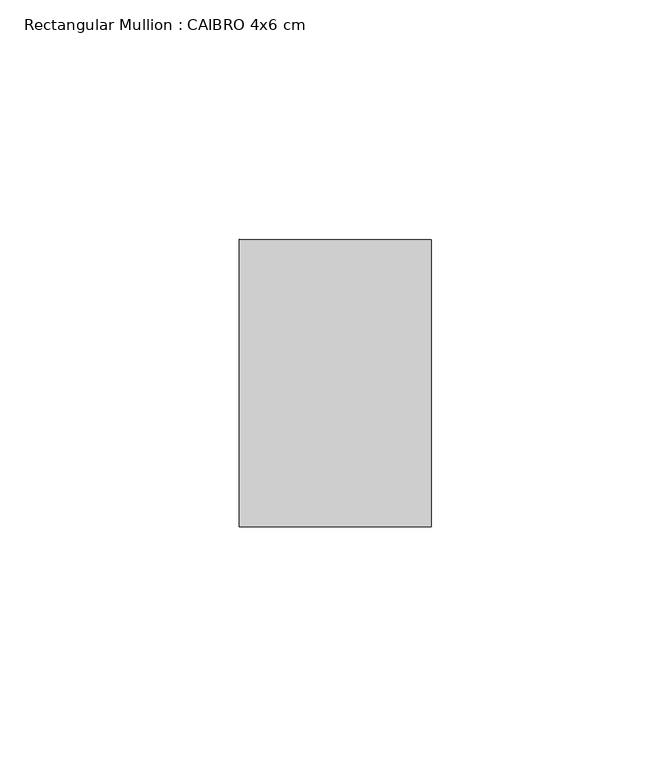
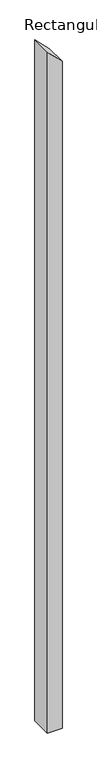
"""IFC4 building model written with IfcOpenShell, lengths in millimetres: member geometry, Rectangular Mullion : CAIBRO 4x6 cm."""

import ifcopenshell
import ifcopenshell.guid

model = None  # the IFC model being written
_history = None  # IfcOwnerHistory: only IFC2X3 demands one
_inside = {}  # id of a spatial element -> (the spatial element, [elements in it])
_under = {}  # id of a project, library or spatial element -> (it, [spatial elements below it])
_declared = {}  # id of a project -> (the project, [libraries it declares])
_typed = {}  # id of a type object -> (the type object, [elements of that type])
_made_of = {}  # id of a material, layer set ... -> (it, [elements and type objects made of it])


def new_model(schema):
    """Start an empty IFC model of exactly this schema.

    Asked for "IFC4X3", IfcOpenShell would pick the latest addendum, in which some entities
    have other attributes; the version numbers below select the first issue.
    IFC2X3 requires an IfcOwnerHistory on every rooted entity: one is made here for all.
    """
    global model, _history
    if schema == "IFC4X3":
        model = ifcopenshell.file(schema_version=(4, 3, 0, 0))
    else:
        model = ifcopenshell.file(schema=schema)
    _inside.clear()
    _under.clear()
    _declared.clear()
    _typed.clear()
    _made_of.clear()
    _history = None
    if model.schema == "IFC2X3":
        org = make("IfcOrganization", Name="unknown")
        user = make(
            "IfcPersonAndOrganization",
            ThePerson=make("IfcPerson", FamilyName="unknown"),
            TheOrganization=org,
        )
        app = make(
            "IfcApplication",
            ApplicationDeveloper=org,
            Version="unknown",
            ApplicationFullName="unknown",
            ApplicationIdentifier="unknown",
        )
        _history = make(
            "IfcOwnerHistory",
            OwningUser=user,
            OwningApplication=app,
            ChangeAction="ADDED",
            CreationDate=0,
        )
    return model


def make(cls, **values):
    """One entity of the class cls with the attributes given. An attribute that is None is left unset."""
    return model.create_entity(
        cls, **{name: value for name, value in values.items() if value is not None}
    )


def rooted(cls, **values):
    """An entity with a GlobalId (a new one), such as an element, a storey or a relation."""
    return make(cls, GlobalId=ifcopenshell.guid.new(), OwnerHistory=_history, **values)


def si_unit(unit_type, name, prefix=None):
    """IfcSIUnit, for example si_unit("LENGTHUNIT", "METRE", prefix="MILLI")."""
    return make("IfcSIUnit", UnitType=unit_type, Prefix=prefix, Name=name)


def assignment(units):
    """IfcUnitAssignment: the units of a project."""
    return None if units is None else make("IfcUnitAssignment", Units=units)


def point(xyz):
    """IfcCartesianPoint."""
    return None if xyz is None else make("IfcCartesianPoint", Coordinates=xyz)


def direction(xyz):
    """IfcDirection."""
    return None if xyz is None else make("IfcDirection", DirectionRatios=xyz)


def frame(location, z_axis=None, x_axis=None):
    """IfcAxis2Placement3D, a coordinate frame: its origin and axes. An axis left out is left unset."""
    return make(
        "IfcAxis2Placement3D",
        Location=point(location),
        Axis=direction(z_axis),
        RefDirection=direction(x_axis),
    )


def origin():
    """The frame at (0, 0, 0) with its axes left unset."""
    return frame((0.0, 0.0, 0.0))


def place(relative_to, where):
    """IfcLocalPlacement: puts the frame where relative to a parent placement (None: the world)."""
    return make(
        "IfcLocalPlacement", PlacementRelTo=relative_to, RelativePlacement=where
    )


def context(
    kind, dimensions, precision=None, world=None, true_north=None, identifier=None
):
    """IfcGeometricRepresentationContext, for example the 3D "Model" context."""
    return make(
        "IfcGeometricRepresentationContext",
        ContextIdentifier=identifier,
        ContextType=kind,
        CoordinateSpaceDimension=dimensions,
        Precision=precision,
        WorldCoordinateSystem=world,
        TrueNorth=true_north,
    )


def project(units=None, contexts=None):
    """IfcProject with its units and contexts."""
    return rooted(
        "IfcProject",
        Name="project",
        RepresentationContexts=contexts,
        UnitsInContext=assignment(units),
    )


def spatial(cls, under=None, at=None, **own):
    """A site, building, storey or space (cls), placed at a placement, below another one or the project."""
    s = rooted(cls, ObjectPlacement=at, **own)
    if under is not None:
        _under.setdefault(under.id(), (under, []))[1].append(s)
    return s


def polyline(points):
    """IfcPolyline through the points."""
    return make("IfcPolyline", Points=[point(p) for p in points])


def outline(outer, holes=None, kind="AREA"):
    """IfcArbitraryClosedProfileDef: a profile drawn as a closed curve; with holes, ...WithVoids."""
    if holes is None:
        return make("IfcArbitraryClosedProfileDef", ProfileType=kind, OuterCurve=outer)
    return make(
        "IfcArbitraryProfileDefWithVoids",
        ProfileType=kind,
        OuterCurve=outer,
        InnerCurves=holes,
    )


def extrude(swept, where, along, depth):
    """IfcExtrudedAreaSolid: the profile swept, set in the frame where, extruded along a direction by depth."""
    return make(
        "IfcExtrudedAreaSolid",
        SweptArea=swept,
        Position=where,
        ExtrudedDirection=direction(along),
        Depth=depth,
    )


def shape(context_of_items, identifier, shape_type, items):
    """IfcShapeRepresentation: the items that make up one representation, for example the "Body"."""
    return make(
        "IfcShapeRepresentation",
        ContextOfItems=context_of_items,
        RepresentationIdentifier=identifier,
        RepresentationType=shape_type,
        Items=items,
    )


def source(mapping_origin, context_of_items, identifier, shape_type, items):
    """IfcRepresentationMap: a shape defined once, which mapped items show again and again."""
    return make(
        "IfcRepresentationMap",
        MappingOrigin=mapping_origin,
        MappedRepresentation=shape(context_of_items, identifier, shape_type, items),
    )


def transform(
    local_origin,
    x_axis=None,
    y_axis=None,
    z_axis=None,
    scale=None,
    scale2=None,
    scale3=None,
    uniform=True,
):
    """IfcCartesianTransformationOperator3D, or its non-uniform kind. x_axis, y_axis, z_axis: its Axis1, 2, 3."""
    if uniform:
        return make(
            "IfcCartesianTransformationOperator3D",
            Axis1=direction(x_axis),
            Axis2=direction(y_axis),
            LocalOrigin=point(local_origin),
            Scale=scale,
            Axis3=direction(z_axis),
        )
    return make(
        "IfcCartesianTransformationOperator3DnonUniform",
        Axis1=direction(x_axis),
        Axis2=direction(y_axis),
        LocalOrigin=point(local_origin),
        Scale=scale,
        Axis3=direction(z_axis),
        Scale2=scale2,
        Scale3=scale3,
    )


def mapped(mapping_source, mapping_target):
    """IfcMappedItem: shows the shape of a source again, moved by a transform."""
    return make(
        "IfcMappedItem", MappingSource=mapping_source, MappingTarget=mapping_target
    )


def made_of(thing, what):
    """Note that an element or type object is made of a material, layer set ...; save() writes the relation."""
    if what is not None:
        _made_of.setdefault(what.id(), (what, []))[1].append(thing)
    return thing


def element(
    cls,
    number,
    at=None,
    inside=None,
    cuts=None,
    type_object=None,
    material=None,
    context=None,
    identifier="Body",
    shape_type=None,
    held_by="IfcProductDefinitionShape",
    body=None,
    shapes=None,
    **own,
):
    """One element of the class cls, such as IfcWall. Its Tag is "e" and its number.

    at: its placement. inside: the storey or other place that contains it. cuts: it is an
    opening in that element (IfcRelVoidsElement). A single representation is given by context,
    identifier, shape_type and body (its items); several are given by shapes. held_by: the class
    of the entity that holds the representations. save() writes the other relations.
    """
    e = rooted(cls, Tag="e%d" % number, ObjectPlacement=at, **own)
    if body is not None:
        shapes = [shape(context, identifier, shape_type, body)]
    if shapes is not None:
        e.Representation = make(held_by, Representations=shapes)
    if inside is not None:
        _inside.setdefault(inside.id(), (inside, []))[1].append(e)
    if cuts is not None:
        rooted(
            "IfcRelVoidsElement", RelatingBuildingElement=cuts, RelatedOpeningElement=e
        )
    if type_object is not None:
        _typed.setdefault(type_object.id(), (type_object, []))[1].append(e)
    return made_of(e, material)


def aggregate(whole, parts):
    """IfcRelAggregates: a whole, such as a stair, and the parts it consists of."""
    return rooted("IfcRelAggregates", RelatingObject=whole, RelatedObjects=parts)


def save(model, path):
    """Write the relations noted so far, then the file.

    IfcRelAggregates (storeys below a building ...), IfcRelContainedInSpatialStructure (elements
    in a storey), IfcRelDefinesByType, IfcRelAssociatesMaterial and IfcRelDeclares: one each for
    every whole, place, type object, material and project.
    """
    for whole, parts in _under.values():
        aggregate(whole, parts)
    for where, things in _inside.values():
        rooted(
            "IfcRelContainedInSpatialStructure",
            RelatedElements=things,
            RelatingStructure=where,
        )
    for kind, things in _typed.values():
        rooted("IfcRelDefinesByType", RelatedObjects=things, RelatingType=kind)
    for what, things in _made_of.values():
        rooted("IfcRelAssociatesMaterial", RelatedObjects=things, RelatingMaterial=what)
    for by, libraries in _declared.values():
        rooted("IfcRelDeclares", RelatingContext=by, RelatedDefinitions=libraries)
    model.write(path)


def rectangular_mullion_caibro_4x6_cm_0dd1b79d(model_context):
    return source(origin(), model_context, "Body", "SweptSolid", [
        extrude(outline(polyline([(-77.109599, 20.0), (-36.6621022, -20.0), (-2019.1768235, -20.0), (-2019.1768235, 20.0), (-77.109599, 20.0)])), frame((0.0, 0.0, 0.0), z_axis=(0.0, 1.0, 0.0), x_axis=(0.0, 0.0, 1.0)), (0.0, 0.0, 1.0), 60.0),
    ])


if __name__ == "__main__":
    model = new_model("IFC4")
    model_context = context("Model", 3, world=origin())
    ifc_project = project(units=[si_unit("LENGTHUNIT", "METRE", prefix="MILLI")], contexts=[model_context])
    site = spatial("IfcSite", under=ifc_project)
    building = spatial("IfcBuilding", under=site)
    placement = place(None, origin())
    rectangular_mullion_caibro_4x6_cm_shape = rectangular_mullion_caibro_4x6_cm_0dd1b79d(model_context)
    element("IfcMember", 1, ObjectType="Rectangular Mullion : CAIBRO 4x6 cm", at=placement, inside=building, context=model_context, shape_type="MappedRepresentation", body=[
        mapped(rectangular_mullion_caibro_4x6_cm_shape, transform((0.0, 0.0, 0.0), x_axis=(1.0, 0.0, 0.0), y_axis=(0.0, 1.0, 0.0), z_axis=(0.0, 0.0, 1.0))),
    ])
    save(model, "model.ifc")
